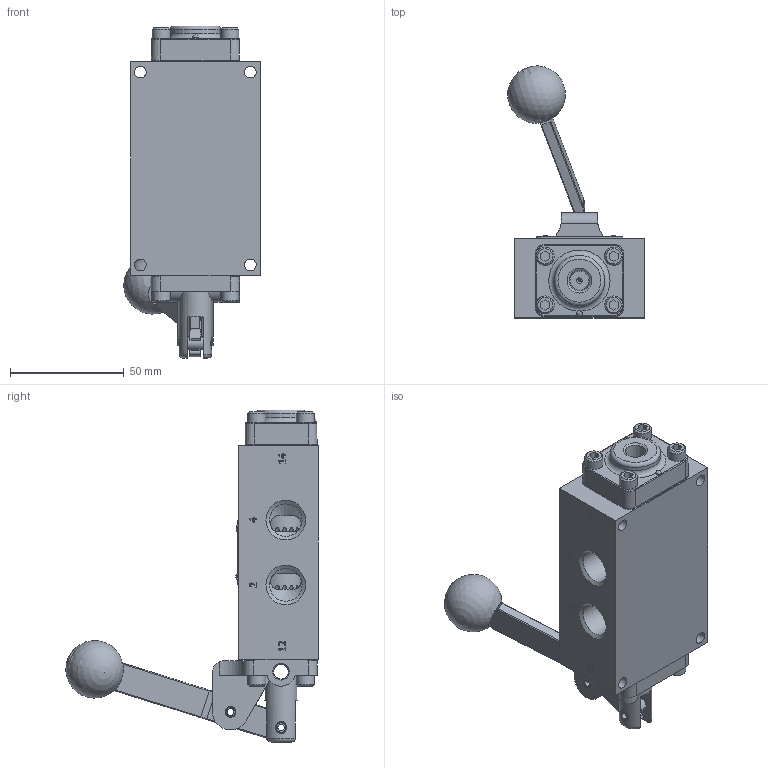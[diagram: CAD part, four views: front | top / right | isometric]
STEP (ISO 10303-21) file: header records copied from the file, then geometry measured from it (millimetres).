
FILE_DESCRIPTION(/* description */ (''),/* implementation_level */ '2;1');
FILE_NAME(/* name */ 'HR3BRHJLO.stp',/* time_stamp */ '2025-02-15T06:46:19-05:00',/* author */ ('rmckenna'),/* organization */ (''),/* preprocessor_version */ 'ST-DEVELOPER v20',/* originating_system */ 'Autodesk Inventor 2024',/* authorisation */ '');
FILE_SCHEMA (('AUTOMOTIVE_DESIGN { 1 0 10303 214 3 1 1 }'));
Length unit declared in the file: centimetre
Products named in the file (1): Part110
Bounding box: 60.16 x 111.15 x 146.21 mm (x, y, z)
Volume: 202185.9 mm3; surface area: 62193.7 mm2
Topology: 1 solids, 31 shells, 1234 faces, 3036 edges, 1932 vertices
Faces by surface type: plane 538, cone 266, cylinder 225, bspline 102, torus 99, sphere 4
Full cylindrical faces by diameter (mm): 1.016 x1, 2.07 x2, 2.261 x2, 2.362 x2, 2.381 x2, 2.778 x2, 3.175 x2, 3.683 x10, 3.912 x3, 4.75 x2, 4.763 x2, 4.826 x8, 4.978 x4, 5.055 x1, 5.156 x12, 6.528 x3, 7.798 x1, 7.938 x8, 9.922 x2, 11.113 x1, 11.303 x2, 14.275 x1, 14.287 x5, 14.986 x1, 18.618 x1, 18.745 x12, 19.177 x2, 23.825 x6
Entity records: 41294 total; most frequent: CARTESIAN_POINT 11341, ORIENTED_EDGE 6028, DIRECTION 5692, EDGE_CURVE 3014, AXIS2_PLACEMENT_3D 2078, VERTEX_POINT 1932, LINE 1536, VECTOR 1536
